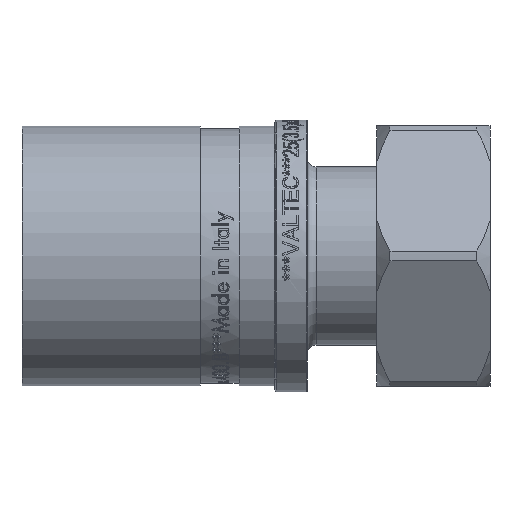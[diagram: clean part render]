
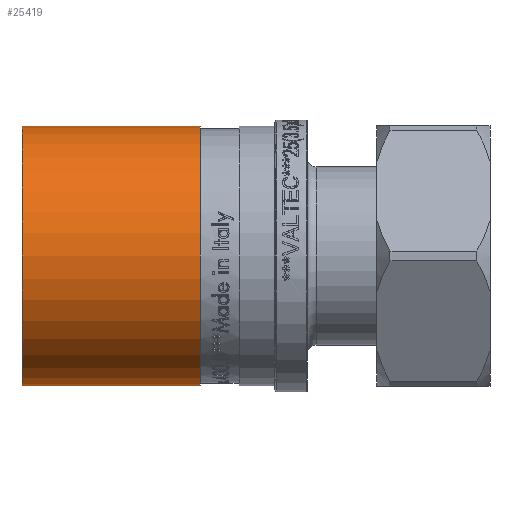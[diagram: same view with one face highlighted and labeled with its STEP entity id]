
A CAD part, front view. The second image highlights one B-rep face of the part: STEP entity #25419.
In plain terms, the highlighted cylindrical face has radius 14.925 mm (diameter 29.85 mm), a full revolution.
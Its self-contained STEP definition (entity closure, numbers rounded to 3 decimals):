
#2607=FACE_OUTER_BOUND('',#4939,.T.);
#3175=CIRCLE('',#26563,14.925);
#3176=CIRCLE('',#26564,14.925);
#3177=CIRCLE('',#26566,14.925);
#3178=CIRCLE('',#26567,14.925);
#4939=EDGE_LOOP('',(#23566,#23567,#23568,#23569,#23570,#23571));
#8168=LINE('',#60068,#9745);
#9745=VECTOR('',#30468,14.925);
#12233=VERTEX_POINT('',#60059);
#12234=VERTEX_POINT('',#60060);
#12235=VERTEX_POINT('',#60064);
#12236=VERTEX_POINT('',#60065);
#16048=EDGE_CURVE('',#12233,#12234,#3175,.T.);
#16049=EDGE_CURVE('',#12234,#12233,#3176,.T.);
#16050=EDGE_CURVE('',#12235,#12236,#3177,.T.);
#16051=EDGE_CURVE('',#12236,#12235,#3178,.T.);
#16052=EDGE_CURVE('',#12236,#12234,#8168,.T.);
#23566=ORIENTED_EDGE('',*,*,#16050,.F.);
#23567=ORIENTED_EDGE('',*,*,#16051,.F.);
#23568=ORIENTED_EDGE('',*,*,#16052,.T.);
#23569=ORIENTED_EDGE('',*,*,#16049,.T.);
#23570=ORIENTED_EDGE('',*,*,#16048,.T.);
#23571=ORIENTED_EDGE('',*,*,#16052,.F.);
#24060=CYLINDRICAL_SURFACE('',#26565,14.925);
#25419=ADVANCED_FACE('',(#2607),#24060,.T.);
#26563=AXIS2_PLACEMENT_3D('',#60061,#30458,#30459);
#26564=AXIS2_PLACEMENT_3D('',#60062,#30460,#30461);
#26565=AXIS2_PLACEMENT_3D('',#60063,#30462,#30463);
#26566=AXIS2_PLACEMENT_3D('',#60066,#30464,#30465);
#26567=AXIS2_PLACEMENT_3D('',#60067,#30466,#30467);
#30458=DIRECTION('center_axis',(1.,0.,0.));
#30459=DIRECTION('ref_axis',(0.,0.,-1.));
#30460=DIRECTION('center_axis',(1.,0.,0.));
#30461=DIRECTION('ref_axis',(0.,0.,-1.));
#30462=DIRECTION('center_axis',(1.,0.,0.));
#30463=DIRECTION('ref_axis',(0.,1.,0.));
#30464=DIRECTION('center_axis',(1.,0.,0.));
#30465=DIRECTION('ref_axis',(0.,0.,-1.));
#30466=DIRECTION('center_axis',(1.,0.,0.));
#30467=DIRECTION('ref_axis',(0.,0.,-1.));
#30468=DIRECTION('',(-1.,0.,0.));
#60059=CARTESIAN_POINT('',(-23.112,14.925,0.));
#60060=CARTESIAN_POINT('',(-23.112,-14.925,0.));
#60061=CARTESIAN_POINT('Origin',(-23.112,0.,0.));
#60062=CARTESIAN_POINT('Origin',(-23.112,0.,0.));
#60063=CARTESIAN_POINT('Origin',(-12.862,0.,0.));
#60064=CARTESIAN_POINT('',(-2.612,14.925,0.));
#60065=CARTESIAN_POINT('',(-2.612,-14.925,0.));
#60066=CARTESIAN_POINT('Origin',(-2.612,0.,0.));
#60067=CARTESIAN_POINT('Origin',(-2.612,0.,0.));
#60068=CARTESIAN_POINT('',(-12.862,-14.925,0.));
